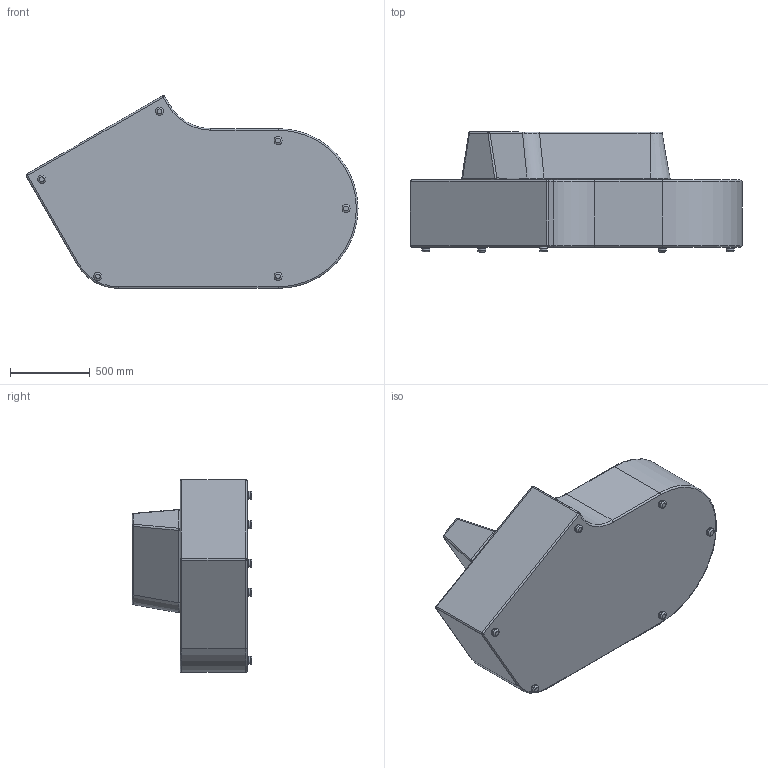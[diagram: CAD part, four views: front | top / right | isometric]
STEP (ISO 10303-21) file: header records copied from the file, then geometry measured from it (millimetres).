
FILE_DESCRIPTION(/* description */ (''),/* implementation_level */ '2;1');
FILE_NAME(/* name */ 'Tango Angle v7.step',/* time_stamp */ '2024-10-02T15:19:04+13:00',/* author */ (''),/* organization */ (''),/* preprocessor_version */ 'ST-DEVELOPER v20',/* originating_system */ 'Autodesk Translation Framework v13.20.0.188',/* authorisation */ '');
FILE_SCHEMA (('AUTOMOTIVE_DESIGN { 1 0 10303 214 3 1 1 }'));
Length unit declared in the file: millimetre
Products named in the file (4): Tango Angle; Seat; Feet; Back
Assembly tree (3 placements, depth 2):
  Tango Angle
    Seat
    Feet
    Back
Bounding box: 2076.34 x 750 x 1206.34 mm (x, y, z)
Volume: 844501028.1 mm3; surface area: 7353786.5 mm2
Topology: 8 solids, 8 shells, 94 faces, 188 edges, 109 vertices
Faces by surface type: cylinder 35, plane 26, torus 20, sphere 8, bspline 4, cone 1
Full cylindrical faces by diameter (mm): 50 x6
Entity records: 2735 total; most frequent: CARTESIAN_POINT 575, DIRECTION 502, ORIENTED_EDGE 374, AXIS2_PLACEMENT_3D 218, EDGE_CURVE 187, CIRCLE 113, VERTEX_POINT 109, FACE_OUTER_BOUND 94
